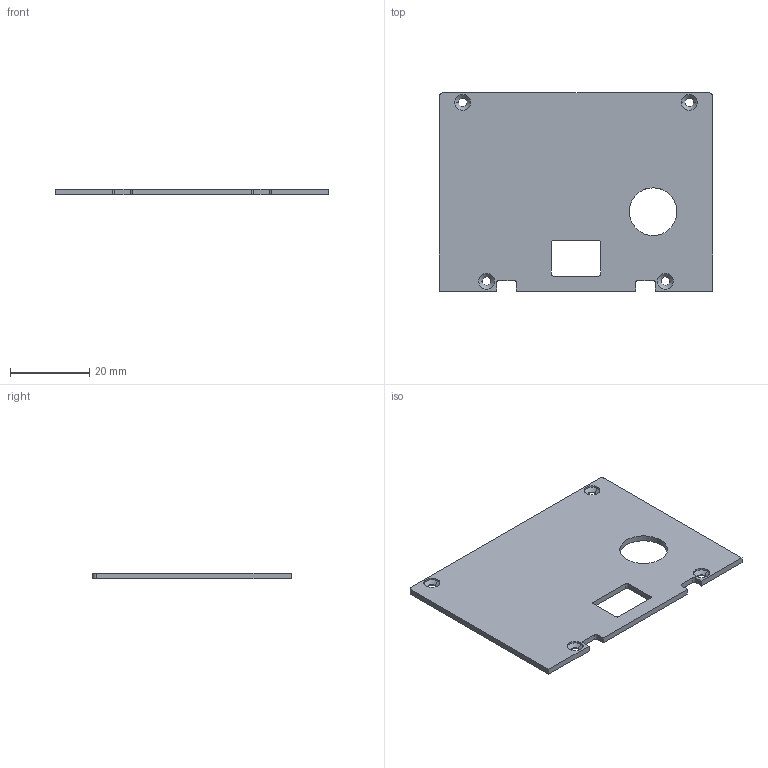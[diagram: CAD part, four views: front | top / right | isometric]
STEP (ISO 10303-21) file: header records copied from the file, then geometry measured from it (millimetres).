
FILE_DESCRIPTION (( 'STEP AP214' ), '1' );
FILE_NAME ('电池盒3-.STEP', '2026-09-29T00:57:35', ( '微软用户' ), ( '微软中国' ), 'SwSTEP 2.0', 'SolidWorks 2016', '' );
FILE_SCHEMA (( 'AUTOMOTIVE_DESIGN' ));
Length unit declared in the file: millimetre
Products named in the file (1): 萇喀碟3-
Bounding box: 68.8 x 49.9 x 1.5 mm (x, y, z)
Volume: 4721.9 mm3; surface area: 6865.7 mm2
Topology: 1 solids, 1 shells, 54 faces, 140 edges, 88 vertices
Faces by surface type: cylinder 28, plane 18, cone 8
Entity records: 1710 total; most frequent: DIRECTION 306, CARTESIAN_POINT 283, ORIENTED_EDGE 280, EDGE_CURVE 140, AXIS2_PLACEMENT_3D 111, VERTEX_POINT 88, VECTOR 84, LINE 84
